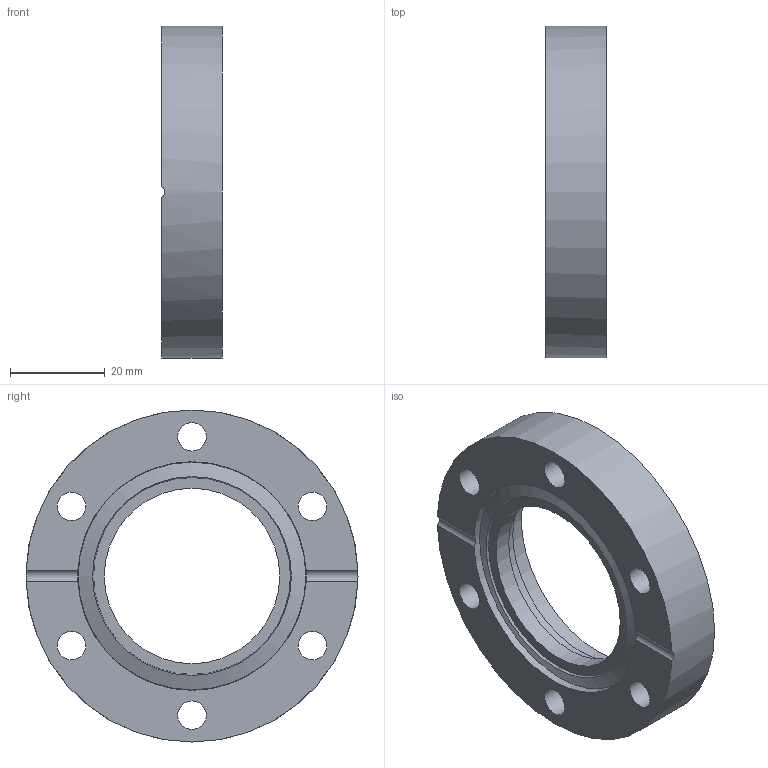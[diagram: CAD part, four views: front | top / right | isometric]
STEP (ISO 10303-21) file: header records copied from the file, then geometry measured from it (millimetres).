
FILE_DESCRIPTION( ( 'Unknown' ), '1' );
FILE_NAME( 'X:/Daten ( aktueller Bestand )/Projekte und Zeichnungen/Solid Edge/STP-Dateien/CF-Teile/7512R4G4.stp', 'Unknown', ( 'Unknown' ), ( 'Unknown' ), 'PSStep 14.0', 'Unknown', ' ' );
FILE_SCHEMA( ( 'AUTOMOTIVE_DESIGN { 1 0 10303 214 1 1 1 1 }' ) );
Length unit declared in the file: millimetre
Products named in the file (3): Assem1; 7512R4-2; 7512R3G-1
Assembly tree (2 placements, depth 2):
  Assem1
    7512R4-2
    7512R3G-1
Bounding box: 12.7 x 70 x 70 mm (x, y, z)
Volume: 28878 mm3; surface area: 13483.9 mm2
Topology: 2 solids, 2 shells, 23 faces, 58 edges, 40 vertices
Faces by surface type: cylinder 14, plane 7, cone 2
Full cylindrical faces by diameter (mm): 6 x6, 37 x1, 40.2 x1, 45.3 x1, 48 x1, 48.2 x1, 70 x1
Entity records: 892 total; most frequent: CARTESIAN_POINT 154, DIRECTION 112, ORIENTED_EDGE 72, AXIS2_PLACEMENT_3D 54, EDGE_LOOP 54, EDGE_CURVE 36, FACE_OUTER_BOUND 35, VERTEX_POINT 32
